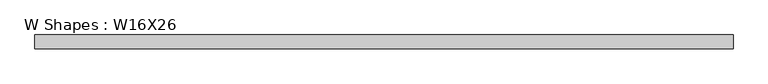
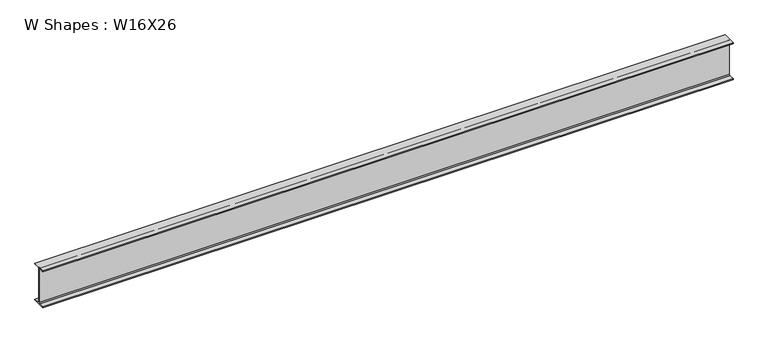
"""IFC4 building model written with IfcOpenShell, lengths in millimetres: beam geometry, W Shapes : W16X26."""

from ifc_helpers import new_model, si_unit, point, frame, frame_2d, origin, place, context, project, spatial, polyline, circle_curve, trimmed, segment, composite_curve, outline, extrude, source, transform, mapped, element, save


def w_shapes_w16x26_ccd9a1e8(model_context):
    return source(origin(), model_context, "Body", "SweptSolid", [
        extrude(outline(composite_curve([segment(polyline([(69.85, -190.627), (69.85, -199.39), (-69.85, -199.39), (-69.85, -190.627), (-13.3858, -190.627)]), True, "CONTINUOUS"), segment(trimmed(circle_curve(frame_2d((-13.3858, -180.4162)), 10.2108), [point((-13.3858, -190.627))], [point((-3.175, -180.4162))], True, "CARTESIAN"), True, "CONTINUOUS"), segment(polyline([(-3.175, -180.4162), (-3.175, 180.4162)]), True, "CONTINUOUS"), segment(trimmed(circle_curve(frame_2d((-13.3858, 180.4162)), 10.2108), [point((-3.175, 180.4162))], [point((-13.3858, 190.627))], True, "CARTESIAN"), True, "CONTINUOUS"), segment(polyline([(-13.3858, 190.627), (-69.85, 190.627), (-69.85, 199.39), (69.85, 199.39), (69.85, 190.627), (13.3858, 190.627)]), True, "CONTINUOUS"), segment(trimmed(circle_curve(frame_2d((13.3858, 180.4162)), 10.2108), [point((13.3858, 190.627))], [point((3.175, 180.4162))], True, "CARTESIAN"), True, "CONTINUOUS"), segment(polyline([(3.175, 180.4162), (3.175, -180.4162)]), True, "CONTINUOUS"), segment(trimmed(circle_curve(frame_2d((13.3858, -180.4162)), 10.2108), [point((3.175, -180.4162))], [point((13.3858, -190.627))], True, "CARTESIAN"), True, "CONTINUOUS"), segment(polyline([(13.3858, -190.627), (69.85, -190.627)]), True, "CONTINUOUS")], self_intersect=False)), frame((-3468.0033827, 0.0, 0.0), z_axis=(1.0, 0.0, 0.0), x_axis=(0.0, 1.0, 0.0)), (0.0, 0.0, 1.0), 7052.8323827),
    ])


if __name__ == "__main__":
    model = new_model("IFC4")
    model_context = context("Model", 3, world=origin())
    ifc_project = project(units=[si_unit("LENGTHUNIT", "METRE", prefix="MILLI")], contexts=[model_context])
    site = spatial("IfcSite", under=ifc_project)
    building = spatial("IfcBuilding", under=site)
    placement = place(None, origin())
    w_shapes_w16x26_shape = w_shapes_w16x26_ccd9a1e8(model_context)
    element("IfcBeam", 1, ObjectType="W Shapes : W16X26", at=placement, inside=building, context=model_context, shape_type="MappedRepresentation", body=[
        mapped(w_shapes_w16x26_shape, transform((0.0, 0.0, 0.0), x_axis=(1.0, 0.0, 0.0), y_axis=(0.0, 1.0, 0.0), z_axis=(0.0, 0.0, 1.0))),
    ])
    save(model, "model.ifc")
